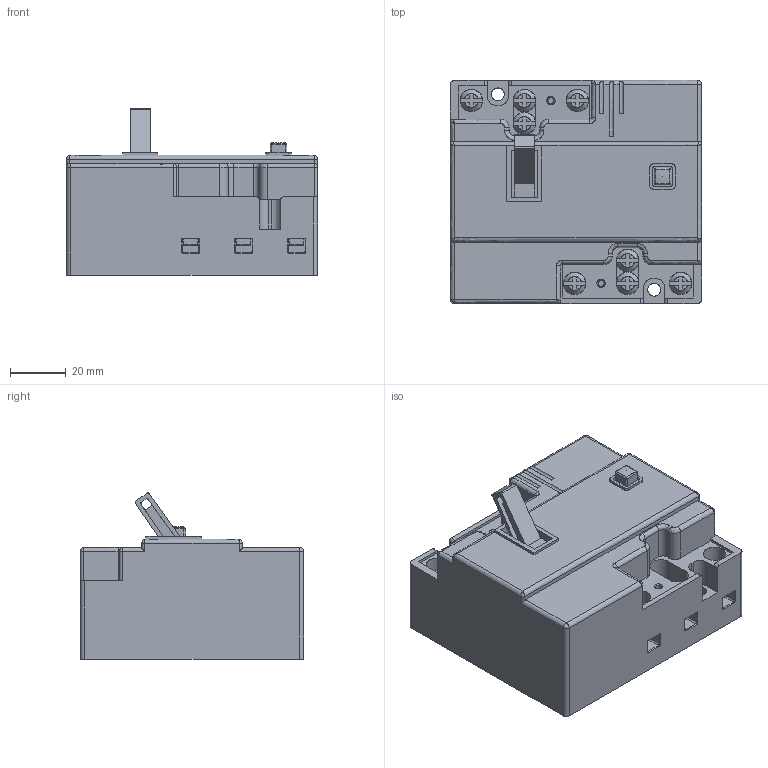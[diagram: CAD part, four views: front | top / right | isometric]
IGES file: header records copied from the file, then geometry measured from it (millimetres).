
Global section: file name: C:\config\04_2_kd-l323j_141029.igs; native system: NX V8.0; preprocessor: SIEMENS PLM Software NX 8.0; date: 20141029.094155; units: millimetre
Bounding box: 90 x 80 x 59.55 mm (x, y, z)
Surface area: 34489.9 mm2 (no closed solid volume)
Topology: 0 solids, 0 shells, 447 faces, 3216 edges, 3197 vertices
Faces by surface type: bspline 447
